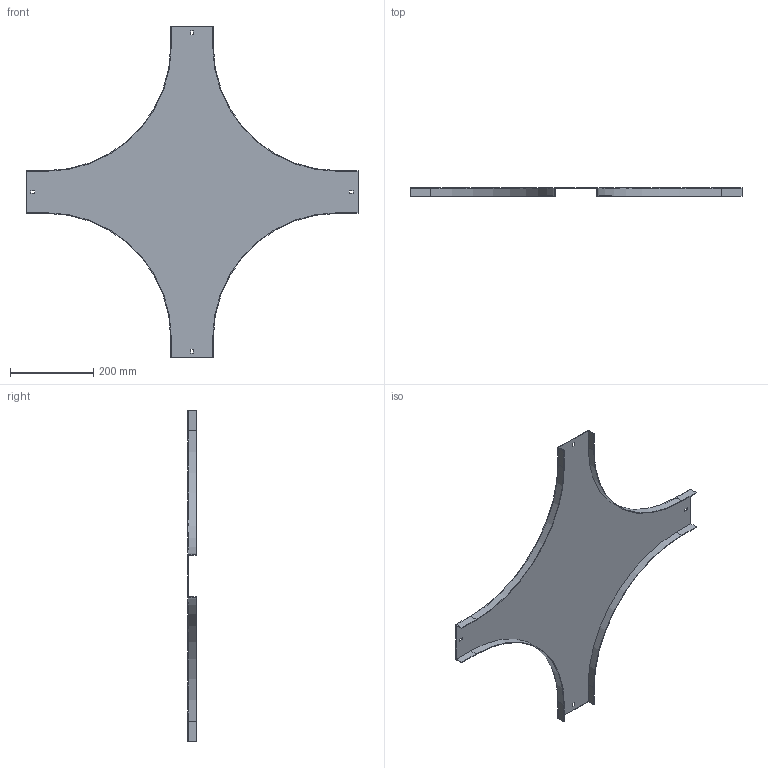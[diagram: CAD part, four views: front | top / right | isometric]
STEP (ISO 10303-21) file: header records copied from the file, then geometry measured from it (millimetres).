
FILE_DESCRIPTION (( 'STEP AP214' ), '1' );
FILE_NAME ('B2_17N3R100.step', '2025-02-21T12:08:35', ( '' ), ( '' ), 'SwSTEP 2.0', 'SolidWorks 2023', '' );
FILE_SCHEMA (( 'AUTOMOTIVE_DESIGN' ));
Length unit declared in the file: millimetre
Products named in the file (1): B2_17N3R100
Bounding box: 800 x 20 x 800 mm (x, y, z)
Volume: 408941.3 mm3; surface area: 549694.3 mm2
Topology: 1 solids, 1 shells, 50 faces, 144 edges, 96 vertices
Faces by surface type: plane 42, cylinder 8
Entity records: 1663 total; most frequent: CARTESIAN_POINT 291, ORIENTED_EDGE 288, DIRECTION 262, EDGE_CURVE 144, VECTOR 128, LINE 128, VERTEX_POINT 96, AXIS2_PLACEMENT_3D 67
